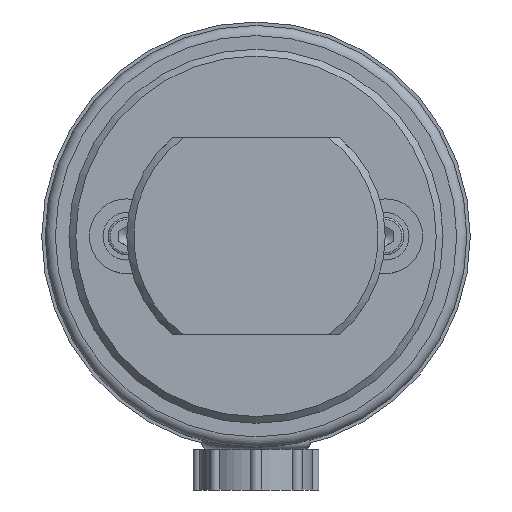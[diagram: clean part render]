
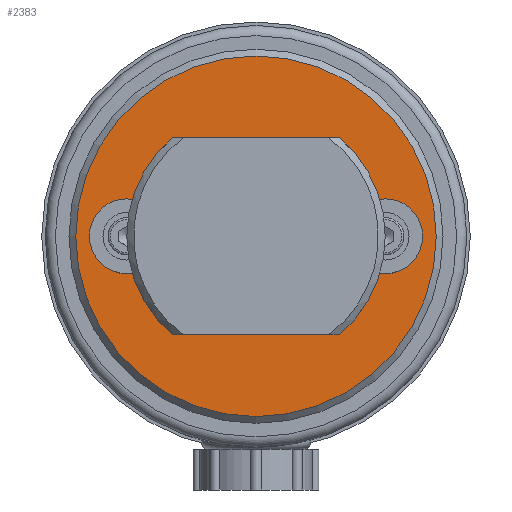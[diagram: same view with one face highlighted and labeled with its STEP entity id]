
A CAD part, left-side view. The second image highlights one B-rep face of the part: STEP entity #2383.
In plain terms, the highlighted planar face has unit normal (-1, 0, 0).
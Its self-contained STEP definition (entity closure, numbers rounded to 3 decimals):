
#364=FACE_BOUND('',#554,.T.);
#409=FACE_OUTER_BOUND('',#553,.T.);
#553=EDGE_LOOP('',(#1639));
#554=EDGE_LOOP('',(#1640,#1641,#1642,#1643,#1644,#1645));
#719=CIRCLE('',#2596,5.5);
#720=CIRCLE('',#2597,5.5);
#725=CIRCLE('',#2605,5.5);
#730=CIRCLE('',#2612,26.5);
#731=CIRCLE('',#2613,14.);
#732=CIRCLE('',#2614,14.);
#733=CIRCLE('',#2615,14.);
#924=VERTEX_POINT('',#3902);
#925=VERTEX_POINT('',#3903);
#926=VERTEX_POINT('',#3914);
#933=VERTEX_POINT('',#3964);
#935=VERTEX_POINT('',#3972);
#938=VERTEX_POINT('',#3989);
#939=VERTEX_POINT('',#3991);
#1190=EDGE_CURVE('',#926,#924,#719,.T.);
#1192=EDGE_CURVE('',#925,#926,#720,.T.);
#1201=EDGE_CURVE('',#935,#933,#725,.T.);
#1208=EDGE_CURVE('',#938,#938,#730,.T.);
#1209=EDGE_CURVE('',#939,#924,#731,.T.);
#1210=EDGE_CURVE('',#935,#939,#732,.T.);
#1211=EDGE_CURVE('',#925,#933,#733,.T.);
#1639=ORIENTED_EDGE('',*,*,#1208,.F.);
#1640=ORIENTED_EDGE('',*,*,#1192,.T.);
#1641=ORIENTED_EDGE('',*,*,#1190,.T.);
#1642=ORIENTED_EDGE('',*,*,#1209,.F.);
#1643=ORIENTED_EDGE('',*,*,#1210,.F.);
#1644=ORIENTED_EDGE('',*,*,#1201,.T.);
#1645=ORIENTED_EDGE('',*,*,#1211,.F.);
#2163=PLANE('',#2611);
#2383=ADVANCED_FACE('',(#409,#364),#2163,.T.);
#2596=AXIS2_PLACEMENT_3D('',#3915,#3033,#3034);
#2597=AXIS2_PLACEMENT_3D('',#3917,#3036,#3037);
#2605=AXIS2_PLACEMENT_3D('',#3973,#3053,#3054);
#2611=AXIS2_PLACEMENT_3D('',#3988,#3066,#3067);
#2612=AXIS2_PLACEMENT_3D('',#3990,#3068,#3069);
#2613=AXIS2_PLACEMENT_3D('',#3992,#3070,#3071);
#2614=AXIS2_PLACEMENT_3D('',#3993,#3072,#3073);
#2615=AXIS2_PLACEMENT_3D('',#3994,#3074,#3075);
#3033=DIRECTION('center_axis',(1.,0.,0.));
#3034=DIRECTION('ref_axis',(0.,1.,0.));
#3036=DIRECTION('center_axis',(1.,0.,0.));
#3037=DIRECTION('ref_axis',(0.,1.,0.));
#3053=DIRECTION('center_axis',(1.,0.,0.));
#3054=DIRECTION('ref_axis',(0.,1.,0.));
#3066=DIRECTION('center_axis',(-1.,0.,0.));
#3067=DIRECTION('ref_axis',(0.,1.,0.));
#3068=DIRECTION('center_axis',(1.,0.,0.));
#3069=DIRECTION('ref_axis',(0.,0.,1.));
#3070=DIRECTION('center_axis',(-1.,0.,0.));
#3071=DIRECTION('ref_axis',(0.,0.,1.));
#3072=DIRECTION('center_axis',(-1.,0.,0.));
#3073=DIRECTION('ref_axis',(0.,0.,1.));
#3074=DIRECTION('center_axis',(-1.,0.,0.));
#3075=DIRECTION('ref_axis',(0.,0.,1.));
#3902=CARTESIAN_POINT('',(-32.448,-17.951,0.938));
#3903=CARTESIAN_POINT('',(-32.448,-17.951,4.862));
#3914=CARTESIAN_POINT('',(-32.448,-28.589,2.9));
#3915=CARTESIAN_POINT('Origin',(-32.448,-23.089,2.9));
#3917=CARTESIAN_POINT('Origin',(-32.448,-23.089,2.9));
#3964=CARTESIAN_POINT('',(-32.448,9.773,4.862));
#3972=CARTESIAN_POINT('',(-32.448,9.773,0.938));
#3973=CARTESIAN_POINT('Origin',(-32.448,14.911,2.9));
#3988=CARTESIAN_POINT('Origin',(-32.448,-4.089,-17.35));
#3989=CARTESIAN_POINT('',(-32.448,-4.089,-23.6));
#3990=CARTESIAN_POINT('Origin',(-32.448,-4.089,2.9));
#3991=CARTESIAN_POINT('',(-32.448,-4.089,-11.1));
#3992=CARTESIAN_POINT('Origin',(-32.448,-4.089,2.9));
#3993=CARTESIAN_POINT('Origin',(-32.448,-4.089,2.9));
#3994=CARTESIAN_POINT('Origin',(-32.448,-4.089,2.9));
